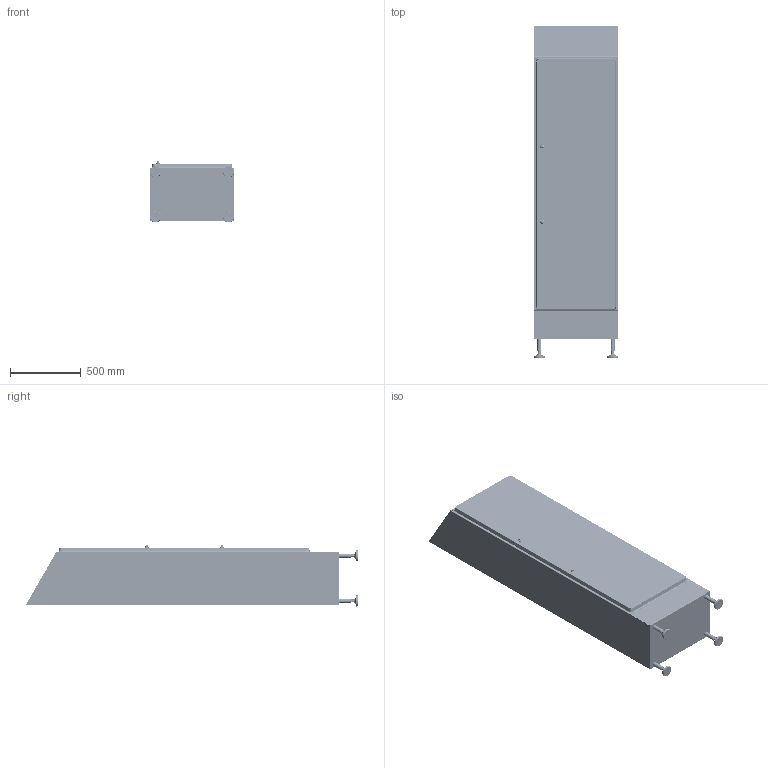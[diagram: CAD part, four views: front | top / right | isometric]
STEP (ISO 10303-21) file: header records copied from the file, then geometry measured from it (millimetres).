
FILE_DESCRIPTION (( 'STEP AP214' ), '1' );
FILE_NAME ('AY0601800400023.STEP', '2026-09-07T08:59:19', ( '' ), ( '' ), 'SwSTEP 2.0', 'SolidWorks 2021', '' );
FILE_SCHEMA (( 'AUTOMOTIVE_DESIGN' ));
Length unit declared in the file: millimetre
Products named in the file (73): 9SASSMI00002; 40002100_Default<Lavorato>; 1890920; 1000-105; 1612008 _standard; 9SAAS1TU00004; 1000-67; 0134793110; 1000-B25; 9ASAS1TU00007_Default<Lavorato>; 9ASASSP01456; 19000034; 1000-80; DIN917_M6; 013285210; 1890860; 9ASASZO01180; 9SAAS1SV00035; 1049-09; Cicatron_M6x20; 18300022; 11005040; 1890900; None; 9SAASSV00005_BOCCOLA; 9SAASPA00110; D933; 1648103004; 166104010_standard; 16011106012_standard; 9SAAS1MI00006_DESTRA INFERIORE; 9ASASSP01434; AS.HY_EKO.HY_ASSIEME_CERNIERA; AY0601800400023; 18200020; 1049-08; 1611020_standard; 9ASASPA02734_VISTA CON GUARNIZIONE; 0133721330; 1641001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
Assembly tree (139 placements, depth 6):
  AY0601800400023
    AYAM06180400001_CERN DX
      AYMT06180400001
      9SAAS1MI00006_DESTRA INFERIORE
        0134793010
        0134793110
        9SASSMI00002
          16020108025_standard
          1612008 _standard  x2
          1642018
        9SAASSV00005_BOCCOLA  x2
          1890900
          11005040
          1611016_standard
      9SAASMI00032
        0134793020
        9ASAS1SP00012
        16020108025_standard
        1612008 _standard  x2
        1642018
        9SAASSV00005_BOCCOLA  x2
          1890900
          11005040
          1611016_standard
      9SAAS1SV00035
        9ASASSP01452
        9ASASSP01434  x2
        9SASSMI00002  x2
          16020108025_standard
          1612008 _standard
          1642018
        0134793200
    0134720030
      0133721330
      1890920  x2
      16011106012_standard  x4
      1641006  x4
      1611006 _standard  x4
    9SAASPA00110
      9ASASPA02734_VISTA CON GUARNIZIONE
      18100093_SENZA LINGUETTE  x2
        None
        None_2
      18200020  x2
        1000-B25
          1000-80
          1000-67  x2
        D6799
      18200021  x2
        1000-105
        D933
      18300022  x4
        1001-U12
        DIN917_M6
      18200023_HY. H.1800  x2
        1049-U7_HY. H.1600
        1049-08
        1049-09
      9SAEKOMI00003  x4
        AS.HY_EKO.HY_ASSIEME_CERNIERA
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Bounding box: 602 x 2354.57 x 432.8 mm (x, y, z)
Volume: 13296537.3 mm3; surface area: 14861767.1 mm2
Topology: 216 solids, 230 shells, 15707 faces, 38332 edges, 22491 vertices
Faces by surface type: cylinder 5990, plane 4131, torus 2768, bspline 1738, sphere 692, cone 388
Entity records: 215312 total; most frequent: CARTESIAN_POINT 69074, DIRECTION 28214, ORIENTED_EDGE 27990, EDGE_CURVE 13999, AXIS2_PLACEMENT_3D 10767, VERTEX_POINT 8451, LINE 6680, VECTOR 6680
